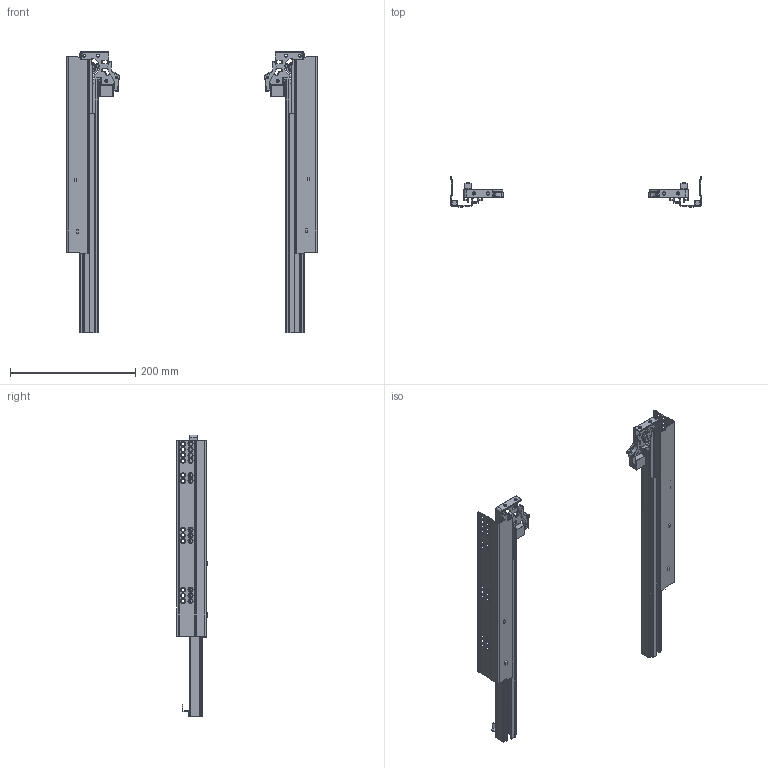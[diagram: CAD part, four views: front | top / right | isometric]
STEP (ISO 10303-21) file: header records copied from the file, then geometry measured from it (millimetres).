
FILE_DESCRIPTION(/* description */ (''),/* implementation_level */ '2;1');
FILE_NAME(/* name */ 'D:\$Workingspace\Designs\Katalog\Cadsoft\GTV Prowadnice\Prowadnice GTV_bryły 3D\PB-0FPO-450.stp',/* time_stamp */ '2016-11-21T11:58:15+01:00',/* author */ ('tomaszw'),/* organization */ (''),/* preprocessor_version */ 'ST-DEVELOPER v16.1',/* originating_system */ 'Autodesk Inventor 2016',/* authorisation */ '');
FILE_SCHEMA (('AUTOMOTIVE_DESIGN { 1 0 10303 214 3 1 1 }'));
Length unit declared in the file: millimetre
Products named in the file (9): PB-0FPO-CL-450; PB-0FPO-CR-450; PB-0FPO-DL-450; PB-0FPO-DR-450; PB-0FPO-DWL-450; PB-0FPO-DWR-450; PB-0FPO-SL; PB-0FPO-SR; PB-0FPO
Assembly tree (8 placements, depth 2):
  PB-0FPO
    PB-0FPO-CL-450
    PB-0FPO-CR-450
    PB-0FPO-DL-450
    PB-0FPO-DR-450
    PB-0FPO-DWL-450
    PB-0FPO-DWR-450
    PB-0FPO-SL
    PB-0FPO-SR
Bounding box: 400 x 48.8 x 450 mm (x, y, z)
Volume: 283894.7 mm3; surface area: 347085.9 mm2
Topology: 16 solids, 16 shells, 1884 faces, 4356 edges, 2510 vertices
Faces by surface type: cylinder 792, plane 444, torus 366, sphere 198, cone 48, bspline 36
Full cylindrical faces by diameter (mm): 3 x2, 4 x6, 4.5 x6, 5 x2, 6 x48, 7.889 x2
Entity records: 56377 total; most frequent: CARTESIAN_POINT 11155, DIRECTION 9982, ORIENTED_EDGE 8308, EDGE_CURVE 4154, AXIS2_PLACEMENT_3D 4031, VERTEX_POINT 2456, EDGE_LOOP 2182, CIRCLE 2154
